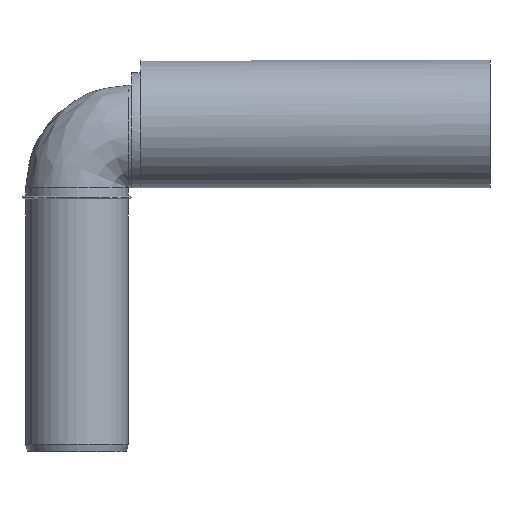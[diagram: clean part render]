
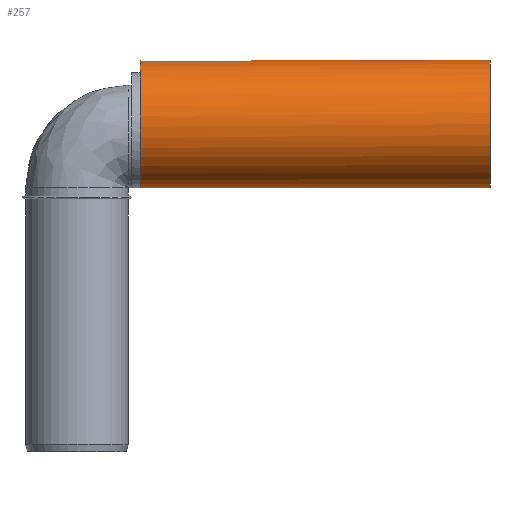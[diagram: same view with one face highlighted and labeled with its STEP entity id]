
A CAD part, front view. The second image highlights one B-rep face of the part: STEP entity #257.
In plain terms, the highlighted cylindrical face has radius 31.125 mm (diameter 62.25 mm), a full revolution.
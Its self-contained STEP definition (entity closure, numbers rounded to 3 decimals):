
#41=CYLINDRICAL_SURFACE($,#303,31.125);
#61=FACE_BOUND($,#117,.T.);
#79=FACE_OUTER_BOUND($,#116,.T.);
#116=EDGE_LOOP($,(#218));
#117=EDGE_LOOP($,(#219));
#138=CIRCLE($,#299,31.125);
#140=CIRCLE($,#304,31.125);
#153=VERTEX_POINT($,#522);
#158=VERTEX_POINT($,#540);
#177=EDGE_CURVE($,#153,#153,#138,.T.);
#179=EDGE_CURVE($,#158,#158,#140,.T.);
#218=ORIENTED_EDGE($,*,*,#177,.F.);
#219=ORIENTED_EDGE($,*,*,#179,.T.);
#257=ADVANCED_FACE($,(#79,#61),#41,.T.);
#299=AXIS2_PLACEMENT_3D($,#534,#381,#382);
#303=AXIS2_PLACEMENT_3D($,#539,#389,#390);
#304=AXIS2_PLACEMENT_3D($,#541,#391,#392);
#381=DIRECTION('center_axis',(0.,0.,-1.));
#382=DIRECTION('ref_axis',(-1.,0.,0.));
#389=DIRECTION('center_axis',(0.,0.,1.));
#390=DIRECTION('ref_axis',(-1.,0.,0.));
#391=DIRECTION('center_axis',(0.,0.,-1.));
#392=DIRECTION('ref_axis',(-1.,0.,0.));
#522=CARTESIAN_POINT('',(0.,25.075,4.));
#534=CARTESIAN_POINT('Origin',(0.,-6.05,4.));
#539=CARTESIAN_POINT('Origin',(0.,-6.05,0.));
#540=CARTESIAN_POINT('',(31.125,-6.05,174.925));
#541=CARTESIAN_POINT('Origin',(0.,-6.05,174.925));
